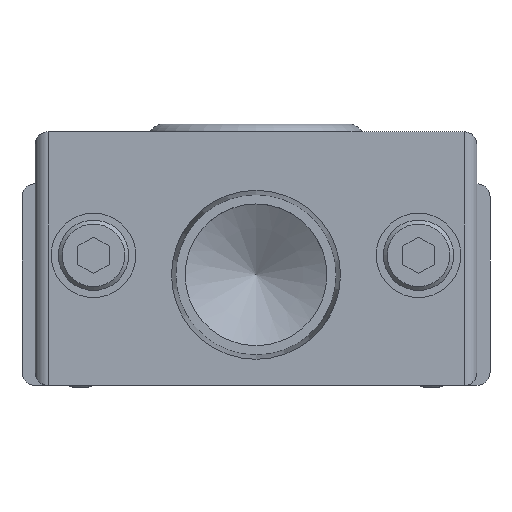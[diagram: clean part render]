
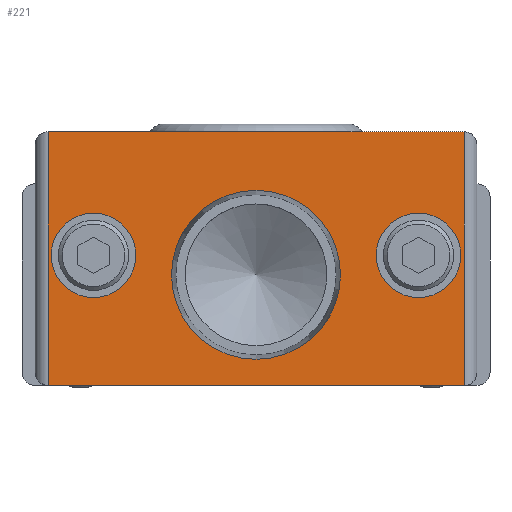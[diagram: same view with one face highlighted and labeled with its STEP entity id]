
A CAD part, front view. The second image highlights one B-rep face of the part: STEP entity #221.
In plain terms, the highlighted planar face has unit normal (0, -1, 0).
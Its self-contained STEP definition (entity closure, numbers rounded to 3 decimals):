
#221=ADVANCED_FACE('',(#537,#538,#539,#540),#541,.F.);
#537=FACE_BOUND('',#969,.T.);
#538=FACE_BOUND('',#970,.T.);
#539=FACE_BOUND('',#971,.T.);
#540=FACE_OUTER_BOUND('',#972,.T.);
#541=PLANE('',#973);
#969=EDGE_LOOP('',(#1576));
#970=EDGE_LOOP('',(#1577));
#971=EDGE_LOOP('',(#1578));
#972=EDGE_LOOP('',(#1579,#1580,#1581,#1582));
#973=AXIS2_PLACEMENT_3D('',#1583,#1584,#1585);
#1576=ORIENTED_EDGE('',*,*,#2234,.F.);
#1577=ORIENTED_EDGE('',*,*,#2335,.T.);
#1578=ORIENTED_EDGE('',*,*,#2183,.T.);
#1579=ORIENTED_EDGE('',*,*,#2187,.T.);
#1580=ORIENTED_EDGE('',*,*,#2336,.T.);
#1581=ORIENTED_EDGE('',*,*,#2337,.F.);
#1582=ORIENTED_EDGE('',*,*,#2229,.T.);
#1583=CARTESIAN_POINT('',(-17.0,-46.,17.0));
#1584=DIRECTION('',(-0.0,1.0,0.0));
#1585=DIRECTION('',(1.0,0.0,0.0));
#2183=EDGE_CURVE('',#2524,#2524,#2525,.T.);
#2187=EDGE_CURVE('',#2532,#2530,#2533,.T.);
#2229=EDGE_CURVE('',#2604,#2532,#2610,.T.);
#2234=EDGE_CURVE('',#2616,#2616,#2617,.T.);
#2335=EDGE_CURVE('',#2770,#2770,#2771,.T.);
#2336=EDGE_CURVE('',#2530,#2772,#2773,.T.);
#2337=EDGE_CURVE('',#2604,#2772,#2774,.T.);
#2524=VERTEX_POINT('',#3098);
#2525=CIRCLE('',#3099,3.25);
#2530=VERTEX_POINT('',#3105);
#2532=VERTEX_POINT('',#3108);
#2533=LINE('',#3109,#3110);
#2604=VERTEX_POINT('',#3206);
#2610=LINE('',#3213,#3214);
#2616=VERTEX_POINT('',#3220);
#2617=CIRCLE('',#3221,6.5);
#2770=VERTEX_POINT('',#3423);
#2771=CIRCLE('',#3424,3.25);
#2772=VERTEX_POINT('',#3425);
#2773=LINE('',#3426,#3427);
#2774=LINE('',#3428,#3429);
#3098=CARTESIAN_POINT('',(15.75,-46.,7.5));
#3099=AXIS2_PLACEMENT_3D('',#3721,#3722,#3723);
#3105=CARTESIAN_POINT('',(16.0,-46.,-2.5));
#3108=CARTESIAN_POINT('',(-16.0,-46.,-2.5));
#3109=CARTESIAN_POINT('',(-17.0,-46.,-2.5));
#3110=VECTOR('',#3726,1.0);
#3206=CARTESIAN_POINT('',(-16.0,-46.,17.0));
#3213=CARTESIAN_POINT('',(-16.0,-46.,17.0));
#3214=VECTOR('',#3786,1.0);
#3220=CARTESIAN_POINT('',(0.,-46.,12.5));
#3221=AXIS2_PLACEMENT_3D('',#3793,#3794,#3795);
#3423=CARTESIAN_POINT('',(-9.25,-46.,7.5));
#3424=AXIS2_PLACEMENT_3D('',#3914,#3915,#3916);
#3425=CARTESIAN_POINT('',(16.0,-46.,17.0));
#3426=CARTESIAN_POINT('',(16.0,-46.,17.0));
#3427=VECTOR('',#3917,1.0);
#3428=CARTESIAN_POINT('',(-17.0,-46.,17.0));
#3429=VECTOR('',#3918,1.0);
#3721=CARTESIAN_POINT('',(12.5,-46.,7.5));
#3722=DIRECTION('',(-0.0,1.0,0.0));
#3723=DIRECTION('',(1.0,0.0,0.0));
#3726=DIRECTION('',(1.0,0.0,0.0));
#3786=DIRECTION('',(0.0,0.0,-1.0));
#3793=CARTESIAN_POINT('',(0.,-46.,6.0));
#3794=DIRECTION('',(0.0,-1.0,0.));
#3795=DIRECTION('',(0.0,0.,1.0));
#3914=CARTESIAN_POINT('',(-12.5,-46.,7.5));
#3915=DIRECTION('',(-0.0,1.0,0.0));
#3916=DIRECTION('',(1.0,0.0,0.0));
#3917=DIRECTION('',(0.0,0.0,1.0));
#3918=DIRECTION('',(1.0,0.0,0.0));
